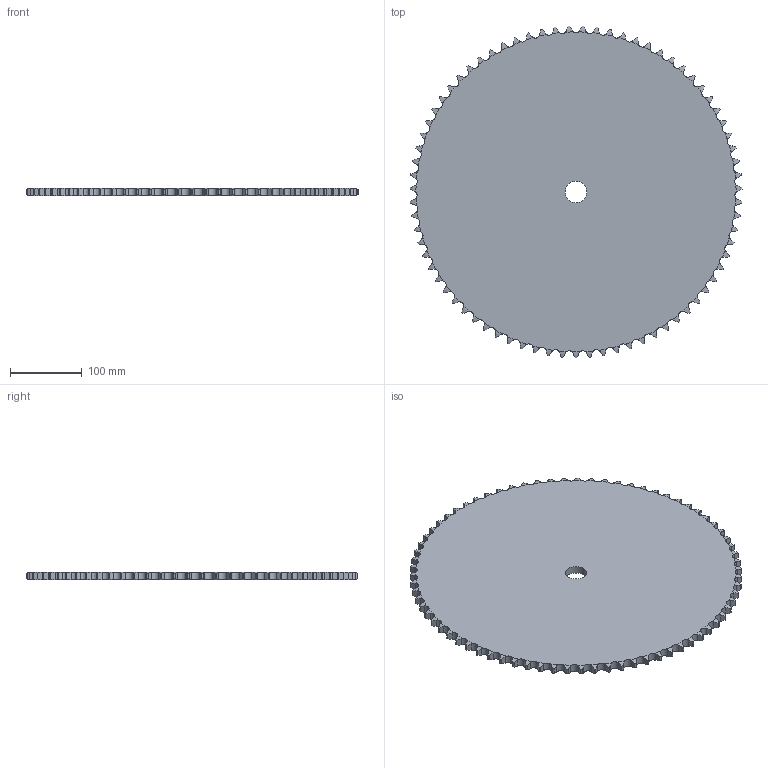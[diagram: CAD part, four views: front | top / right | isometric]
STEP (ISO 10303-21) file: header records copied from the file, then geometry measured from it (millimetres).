
FILE_DESCRIPTION((''),'2;1');
FILE_NAME('500-401-0075_PRT','2021-02-12T',('Brieden'),('Brieden'),'PRO/ENGINEER BY PARAMETRIC TECHNOLOGY CORPORATION, 2010160','PRO/ENGINEER BY PARAMETRIC TECHNOLOGY CORPORATION, 2010160','');
FILE_SCHEMA(('AUTOMOTIVE_DESIGN { 1 0 10303 214 1 1 1 1 }'));
Length unit declared in the file: millimetre
Products named in the file (1): 500-401-0075_PRT
Bounding box: 462.24 x 462.14 x 11.1 mm (x, y, z)
Volume: 1755998 mm3; surface area: 340554.6 mm2
Topology: 1 solids, 1 shells, 454 faces, 1356 edges, 904 vertices
Faces by surface type: cylinder 302, torus 150, plane 2
Entity records: 22668 total; most frequent: CARTESIAN_POINT 7049, ORIENTED_EDGE 2712, DIRECTION 2118, PRESENTATION_STYLE_ASSIGNMENT 1357, STYLED_ITEM 1357, CURVE_STYLE 1356, EDGE_CURVE 1356, AXIS2_PLACEMENT_3D 908
